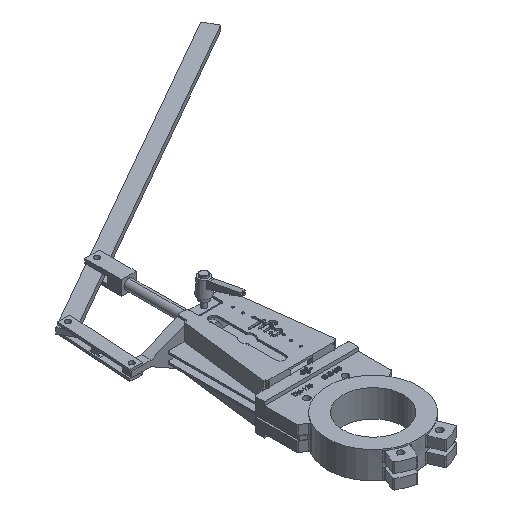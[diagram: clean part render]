
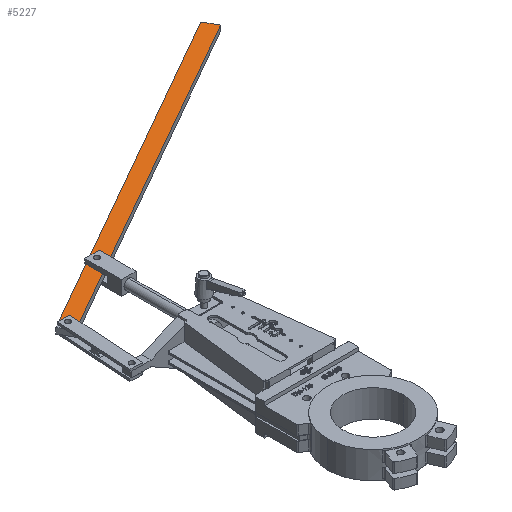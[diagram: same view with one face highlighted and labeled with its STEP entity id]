
A CAD part, isometric view. The second image highlights one B-rep face of the part: STEP entity #5227.
In plain terms, the highlighted planar face has unit normal (0, 0, 1).
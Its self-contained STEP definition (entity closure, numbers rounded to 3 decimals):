
#831 = LINE ( 'NONE', #24831, #17114 ) ;
#1096 = EDGE_CURVE ( 'NONE', #9629, #21934, #32394, .T. ) ;
#1966 = ORIENTED_EDGE ( 'NONE', *, *, #24836, .F. ) ;
#2665 = AXIS2_PLACEMENT_3D ( 'NONE', #5988, #32688, #30281 ) ;
#2726 = LINE ( 'NONE', #13030, #11933 ) ;
#2751 = VERTEX_POINT ( 'NONE', #10761 ) ;
#3157 = EDGE_LOOP ( 'NONE', ( #4479, #26383 ) ) ;
#4400 = DIRECTION ( 'NONE',  ( 0.059, 0.998, 0. ) ) ;
#4479 = ORIENTED_EDGE ( 'NONE', *, *, #9544, .T. ) ;
#5227 = ADVANCED_FACE ( 'NONE', ( #8780, #18804 ), #17068, .T. ) ;
#5565 = CARTESIAN_POINT ( 'NONE',  ( 535.943, 891.863, 7. ) ) ;
#5988 = CARTESIAN_POINT ( 'NONE',  ( 0., 0., 7. ) ) ;
#6133 = VERTEX_POINT ( 'NONE', #30295 ) ;
#7123 = DIRECTION ( 'NONE',  ( 0., 0., -1. ) ) ;
#7792 = DIRECTION ( 'NONE',  ( 0., 0., -1. ) ) ;
#8292 = CARTESIAN_POINT ( 'NONE',  ( -5.25, 569., 7. ) ) ;
#8780 = FACE_BOUND ( 'NONE', #3157, .T. ) ;
#9184 = VERTEX_POINT ( 'NONE', #21698 ) ;
#9544 = EDGE_CURVE ( 'NONE', #9184, #18141, #16946, .T. ) ;
#9629 = VERTEX_POINT ( 'NONE', #11978 ) ;
#10197 = AXIS2_PLACEMENT_3D ( 'NONE', #18661, #7792, #15464 ) ;
#10761 = CARTESIAN_POINT ( 'NONE',  ( 550.803, 865.802, 7. ) ) ;
#11090 = VECTOR ( 'NONE', #11130, 1000. ) ;
#11130 = DIRECTION ( 'NONE',  ( -0.998, 0.059, 0. ) ) ;
#11933 = VECTOR ( 'NONE', #23704, 1000. ) ;
#11978 = CARTESIAN_POINT ( 'NONE',  ( -127.661, 498., 7. ) ) ;
#13030 = CARTESIAN_POINT ( 'NONE',  ( 535.943, 891.863, 7. ) ) ;
#13365 = ORIENTED_EDGE ( 'NONE', *, *, #1096, .F. ) ;
#13571 = AXIS2_PLACEMENT_3D ( 'NONE', #28409, #7123, #15088 ) ;
#14633 = CARTESIAN_POINT ( 'NONE',  ( 550.803, 865.802, 7. ) ) ;
#15088 = DIRECTION ( 'NONE',  ( 1., 0., 0. ) ) ;
#15464 = DIRECTION ( 'NONE',  ( 1., 0., 0. ) ) ;
#16660 = ORIENTED_EDGE ( 'NONE', *, *, #21844, .F. ) ;
#16946 = CIRCLE ( 'NONE', #13571, 5.25 ) ;
#17068 = PLANE ( 'NONE',  #2665 ) ;
#17114 = VECTOR ( 'NONE', #30835, 1000. ) ;
#18141 = VERTEX_POINT ( 'NONE', #8292 ) ;
#18323 = EDGE_CURVE ( 'NONE', #21934, #26823, #2726, .T. ) ;
#18537 = CARTESIAN_POINT ( 'NONE',  ( -152.248, 499.455, 7. ) ) ;
#18661 = CARTESIAN_POINT ( 'NONE',  ( 0., 569., 7. ) ) ;
#18804 = FACE_OUTER_BOUND ( 'NONE', #32551, .T. ) ;
#19213 = CARTESIAN_POINT ( 'NONE',  ( -152.617, 499.476, 7. ) ) ;
#21698 = CARTESIAN_POINT ( 'NONE',  ( 5.25, 569., 7. ) ) ;
#21844 = EDGE_CURVE ( 'NONE', #6133, #9629, #26475, .T. ) ;
#21934 = VERTEX_POINT ( 'NONE', #18537 ) ;
#22524 = LINE ( 'NONE', #14633, #26262 ) ;
#23704 = DIRECTION ( 'NONE',  ( 0.869, 0.495, 0. ) ) ;
#24831 = CARTESIAN_POINT ( 'NONE',  ( -144.158, 469.533, 7. ) ) ;
#24836 = EDGE_CURVE ( 'NONE', #2751, #6133, #831, .T. ) ;
#26037 = CARTESIAN_POINT ( 'NONE',  ( -127.661, 498., 7. ) ) ;
#26262 = VECTOR ( 'NONE', #30537, 1000. ) ;
#26383 = ORIENTED_EDGE ( 'NONE', *, *, #26733, .T. ) ;
#26475 = LINE ( 'NONE', #26037, #32299 ) ;
#26733 = EDGE_CURVE ( 'NONE', #18141, #9184, #29555, .T. ) ;
#26823 = VERTEX_POINT ( 'NONE', #5565 ) ;
#28409 = CARTESIAN_POINT ( 'NONE',  ( 0., 569., 7. ) ) ;
#29555 = CIRCLE ( 'NONE', #10197, 5.25 ) ;
#30281 = DIRECTION ( 'NONE',  ( 1., 0., 0. ) ) ;
#30295 = CARTESIAN_POINT ( 'NONE',  ( -128.828, 478.275, 7. ) ) ;
#30537 = DIRECTION ( 'NONE',  ( 0.495, -0.869, 0. ) ) ;
#30835 = DIRECTION ( 'NONE',  ( -0.869, -0.495, 0. ) ) ;
#31429 = ORIENTED_EDGE ( 'NONE', *, *, #18323, .F. ) ;
#32133 = EDGE_CURVE ( 'NONE', #26823, #2751, #22524, .T. ) ;
#32299 = VECTOR ( 'NONE', #4400, 1000. ) ;
#32394 = LINE ( 'NONE', #19213, #11090 ) ;
#32551 = EDGE_LOOP ( 'NONE', ( #16660, #1966, #33917, #31429, #13365 ) ) ;
#32688 = DIRECTION ( 'NONE',  ( 0., 0., 1. ) ) ;
#33917 = ORIENTED_EDGE ( 'NONE', *, *, #32133, .F. ) ;
